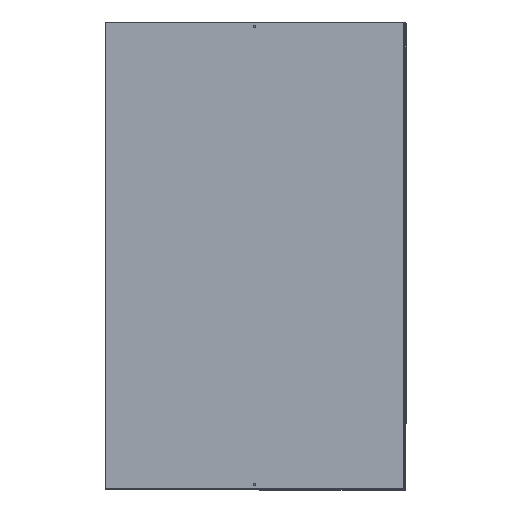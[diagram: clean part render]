
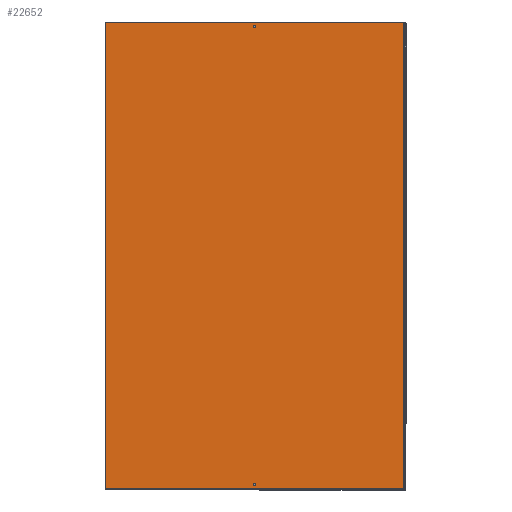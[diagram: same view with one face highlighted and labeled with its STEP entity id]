
A CAD part, top view. The second image highlights one B-rep face of the part: STEP entity #22652.
In plain terms, the highlighted planar face has unit normal (0, 0, 1) as drawn and (0, 0, -1) by its records, which use the part's own axes.
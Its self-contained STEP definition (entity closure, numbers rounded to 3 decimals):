
#676=CIRCLE('',#24189,2.);
#677=CIRCLE('',#24190,2.);
#2532=ORIENTED_EDGE('',*,*,#8144,.F.);
#2533=ORIENTED_EDGE('',*,*,#8145,.F.);
#2534=ORIENTED_EDGE('',*,*,#8146,.T.);
#2535=ORIENTED_EDGE('',*,*,#8147,.T.);
#2536=ORIENTED_EDGE('',*,*,#8148,.F.);
#2537=ORIENTED_EDGE('',*,*,#8149,.F.);
#8144=EDGE_CURVE('',#11095,#11095,#676,.T.);
#8145=EDGE_CURVE('',#11096,#11096,#677,.T.);
#8146=EDGE_CURVE('',#11097,#11098,#13215,.T.);
#8147=EDGE_CURVE('',#11098,#11099,#13216,.T.);
#8148=EDGE_CURVE('',#11100,#11099,#13217,.T.);
#8149=EDGE_CURVE('',#11097,#11100,#13218,.T.);
#11095=VERTEX_POINT('',#33317);
#11096=VERTEX_POINT('',#33319);
#11097=VERTEX_POINT('',#33321);
#11098=VERTEX_POINT('',#33322);
#11099=VERTEX_POINT('',#33324);
#11100=VERTEX_POINT('',#33326);
#13215=LINE('',#33320,#15825);
#13216=LINE('',#33323,#15826);
#13217=LINE('',#33325,#15827);
#13218=LINE('',#33327,#15828);
#15825=VECTOR('',#26945,1000.);
#15826=VECTOR('',#26946,1000.);
#15827=VECTOR('',#26947,1000.);
#15828=VECTOR('',#26948,1000.);
#18393=EDGE_LOOP('',(#2532));
#18394=EDGE_LOOP('',(#2533));
#18395=EDGE_LOOP('',(#2534,#2535,#2536,#2537));
#20174=FACE_BOUND('',#18393,.T.);
#20175=FACE_BOUND('',#18394,.T.);
#20176=FACE_BOUND('',#18395,.T.);
#21633=PLANE('',#24188);
#22652=ADVANCED_FACE('',(#20174,#20175,#20176),#21633,.T.);
#24188=AXIS2_PLACEMENT_3D('',#33315,#26939,#26940);
#24189=AXIS2_PLACEMENT_3D('',#33316,#26941,#26942);
#24190=AXIS2_PLACEMENT_3D('',#33318,#26943,#26944);
#26939=DIRECTION('',(0.,0.,-1.));
#26940=DIRECTION('',(-1.,0.,0.));
#26941=DIRECTION('',(0.,0.,-1.));
#26942=DIRECTION('',(-1.,0.,0.));
#26943=DIRECTION('',(0.,0.,-1.));
#26944=DIRECTION('',(-1.,0.,0.));
#26945=DIRECTION('',(-1.,0.,0.));
#26946=DIRECTION('',(0.,1.,0.));
#26947=DIRECTION('',(-1.,0.,0.));
#26948=DIRECTION('',(0.,1.,0.));
#33315=CARTESIAN_POINT('',(231.8,-426.2,-0.7));
#33316=CARTESIAN_POINT('',(0.,-387.2,-0.7));
#33317=CARTESIAN_POINT('',(-2.,-387.2,-0.7));
#33318=CARTESIAN_POINT('',(0.,387.2,-0.7));
#33319=CARTESIAN_POINT('',(-2.,387.2,-0.7));
#33320=CARTESIAN_POINT('',(251.8,-394.2,-0.7));
#33321=CARTESIAN_POINT('',(251.8,-394.2,-0.7));
#33322=CARTESIAN_POINT('',(-251.8,-394.2,-0.7));
#33323=CARTESIAN_POINT('',(-251.8,-394.1,-0.7));
#33324=CARTESIAN_POINT('',(-251.8,394.2,-0.7));
#33325=CARTESIAN_POINT('',(251.8,394.2,-0.7));
#33326=CARTESIAN_POINT('',(251.8,394.2,-0.7));
#33327=CARTESIAN_POINT('',(251.8,-394.1,-0.7));
